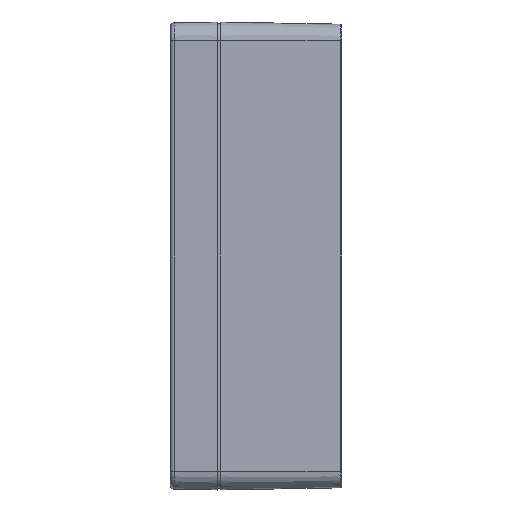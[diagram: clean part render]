
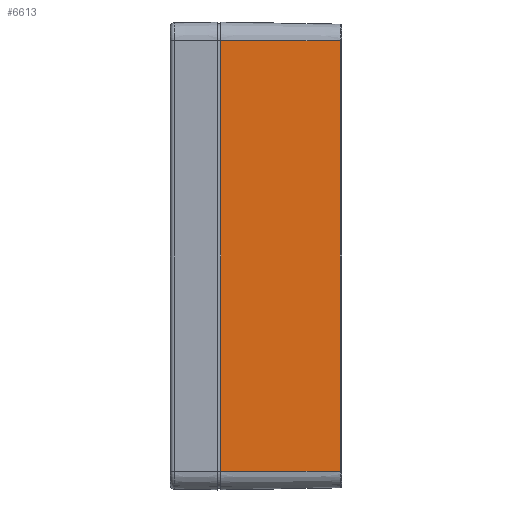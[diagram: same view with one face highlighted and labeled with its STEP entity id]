
A CAD part, left-side view. The second image highlights one B-rep face of the part: STEP entity #6613.
In plain terms, the highlighted planar face has unit normal (-1, -0.018, 0).
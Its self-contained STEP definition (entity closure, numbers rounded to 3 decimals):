
#5831 = EDGE_CURVE ( 'NONE', #45454, #39288, #47700, .T. ) ;
#6613 = ADVANCED_FACE ( 'NONE', ( #28666 ), #47103, .T. ) ;
#8705 = VECTOR ( 'NONE', #36605, 1000. ) ;
#9508 = DIRECTION ( 'NONE',  ( -1., -0.017, 0. ) ) ;
#10211 = AXIS2_PLACEMENT_3D ( 'NONE', #21288, #9508, #24261 ) ;
#10239 = LINE ( 'NONE', #21554, #22495 ) ;
#12852 = CARTESIAN_POINT ( 'NONE',  ( -99.164, -39.309, 68.95 ) ) ;
#12961 = ORIENTED_EDGE ( 'NONE', *, *, #32351, .T. ) ;
#15000 = EDGE_CURVE ( 'NONE', #45454, #42289, #10239, .T. ) ;
#17295 = CARTESIAN_POINT ( 'NONE',  ( -99.833, -1., -68.95 ) ) ;
#19182 = VECTOR ( 'NONE', #29224, 1000. ) ;
#21135 = EDGE_CURVE ( 'NONE', #42289, #44196, #40541, .T. ) ;
#21288 = CARTESIAN_POINT ( 'NONE',  ( -99.85, 0., 68.95 ) ) ;
#21554 = CARTESIAN_POINT ( 'NONE',  ( -99.164, -39.309, 68.95 ) ) ;
#22495 = VECTOR ( 'NONE', #36523, 1000. ) ;
#23235 = ORIENTED_EDGE ( 'NONE', *, *, #21135, .T. ) ;
#24261 = DIRECTION ( 'NONE',  ( 0.017, -1., 0. ) ) ;
#24682 = VECTOR ( 'NONE', #26392, 1000. ) ;
#24872 = ORIENTED_EDGE ( 'NONE', *, *, #5831, .F. ) ;
#26392 = DIRECTION ( 'NONE',  ( 0., 0., -1. ) ) ;
#28064 = EDGE_LOOP ( 'NONE', ( #23235, #12961, #24872, #29235 ) ) ;
#28666 = FACE_OUTER_BOUND ( 'NONE', #28064, .T. ) ;
#28996 = CARTESIAN_POINT ( 'NONE',  ( -99.85, 0., 68.95 ) ) ;
#29223 = CARTESIAN_POINT ( 'NONE',  ( -99.85, 0., -68.95 ) ) ;
#29224 = DIRECTION ( 'NONE',  ( -0.017, 1., 0. ) ) ;
#29235 = ORIENTED_EDGE ( 'NONE', *, *, #15000, .T. ) ;
#30030 = CARTESIAN_POINT ( 'NONE',  ( -99.164, -39.309, -68.95 ) ) ;
#31898 = CARTESIAN_POINT ( 'NONE',  ( -99.833, -1., 68.95 ) ) ;
#32351 = EDGE_CURVE ( 'NONE', #44196, #39288, #45827, .T. ) ;
#34260 = CARTESIAN_POINT ( 'NONE',  ( -99.833, -1., 68.95 ) ) ;
#36523 = DIRECTION ( 'NONE',  ( 0., 0., 1. ) ) ;
#36605 = DIRECTION ( 'NONE',  ( -0.017, 1., 0. ) ) ;
#39288 = VERTEX_POINT ( 'NONE', #17295 ) ;
#40541 = LINE ( 'NONE', #28996, #19182 ) ;
#42289 = VERTEX_POINT ( 'NONE', #12852 ) ;
#44196 = VERTEX_POINT ( 'NONE', #31898 ) ;
#45454 = VERTEX_POINT ( 'NONE', #30030 ) ;
#45827 = LINE ( 'NONE', #34260, #24682 ) ;
#47103 = PLANE ( 'NONE',  #10211 ) ;
#47700 = LINE ( 'NONE', #29223, #8705 ) ;
